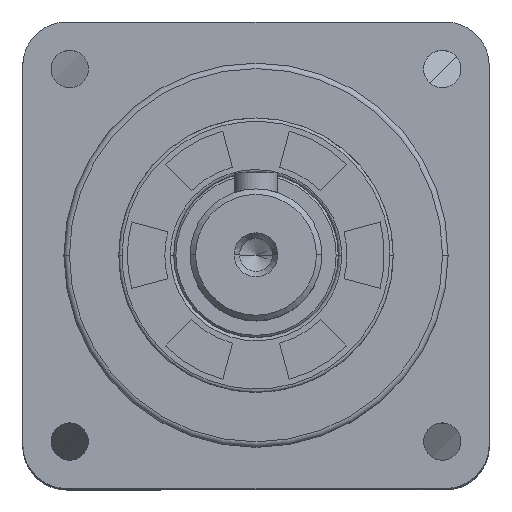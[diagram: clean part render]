
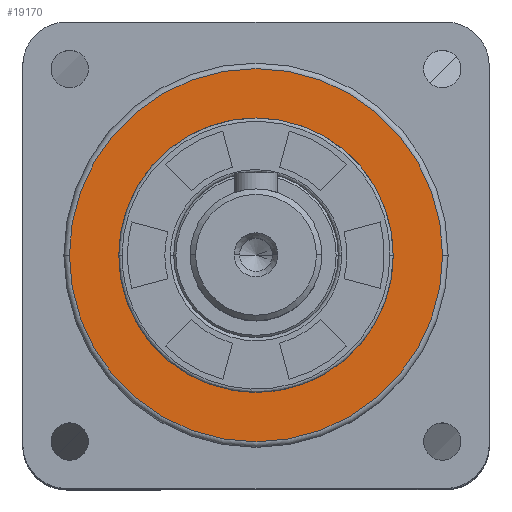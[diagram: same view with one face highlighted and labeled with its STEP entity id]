
A CAD part, top view. The second image highlights one B-rep face of the part: STEP entity #19170.
In plain terms, the highlighted planar face has unit normal (0, 0, 1).
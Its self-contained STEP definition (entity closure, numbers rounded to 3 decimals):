
#758 = ORIENTED_EDGE ( 'NONE', *, *, #22662, .F. ) ;
#1582 = DIRECTION ( 'NONE',  ( 0., 0., 1. ) ) ;
#1637 = ORIENTED_EDGE ( 'NONE', *, *, #4721, .F. ) ;
#1977 = EDGE_CURVE ( 'NONE', #12068, #4482, #14217, .T. ) ;
#3202 = EDGE_CURVE ( 'NONE', #4482, #12068, #8449, .T. ) ;
#3795 = CARTESIAN_POINT ( 'NONE',  ( 12.5, 0., 14.8 ) ) ;
#4329 = DIRECTION ( 'NONE',  ( 0., 0., 1. ) ) ;
#4408 = CIRCLE ( 'NONE', #6961, 12.5 ) ;
#4482 = VERTEX_POINT ( 'NONE', #16388 ) ;
#4721 = EDGE_CURVE ( 'NONE', #11130, #4800, #4408, .T. ) ;
#4800 = VERTEX_POINT ( 'NONE', #13644 ) ;
#5182 = CARTESIAN_POINT ( 'NONE',  ( 0., 0., 14.8 ) ) ;
#5594 = EDGE_LOOP ( 'NONE', ( #13052, #9713 ) ) ;
#6629 = AXIS2_PLACEMENT_3D ( 'NONE', #15343, #22528, #7846 ) ;
#6845 = CIRCLE ( 'NONE', #18634, 12.5 ) ;
#6961 = AXIS2_PLACEMENT_3D ( 'NONE', #9876, #11717, #10181 ) ;
#7092 = DIRECTION ( 'NONE',  ( 1., 0., 0. ) ) ;
#7846 = DIRECTION ( 'NONE',  ( 1., 0., 0. ) ) ;
#8006 = DIRECTION ( 'NONE',  ( 1., 0., 0. ) ) ;
#8449 = CIRCLE ( 'NONE', #16137, 17. ) ;
#9713 = ORIENTED_EDGE ( 'NONE', *, *, #1977, .T. ) ;
#9876 = CARTESIAN_POINT ( 'NONE',  ( 0., 0., 14.8 ) ) ;
#10047 = FACE_OUTER_BOUND ( 'NONE', #5594, .T. ) ;
#10181 = DIRECTION ( 'NONE',  ( 1., 0., 0. ) ) ;
#10306 = DIRECTION ( 'NONE',  ( 0., 0., 1. ) ) ;
#11130 = VERTEX_POINT ( 'NONE', #3795 ) ;
#11717 = DIRECTION ( 'NONE',  ( 0., 0., 1. ) ) ;
#12068 = VERTEX_POINT ( 'NONE', #22112 ) ;
#12159 = DIRECTION ( 'NONE',  ( 1., 0., 0. ) ) ;
#12843 = EDGE_LOOP ( 'NONE', ( #1637, #758 ) ) ;
#13052 = ORIENTED_EDGE ( 'NONE', *, *, #3202, .T. ) ;
#13422 = PLANE ( 'NONE',  #6629 ) ;
#13644 = CARTESIAN_POINT ( 'NONE',  ( -12.5, 0., 14.8 ) ) ;
#14217 = CIRCLE ( 'NONE', #17485, 17. ) ;
#14950 = FACE_BOUND ( 'NONE', #12843, .T. ) ;
#15343 = CARTESIAN_POINT ( 'NONE',  ( 0., 0., 14.8 ) ) ;
#16137 = AXIS2_PLACEMENT_3D ( 'NONE', #5182, #1582, #7092 ) ;
#16388 = CARTESIAN_POINT ( 'NONE',  ( 17., 0., 14.8 ) ) ;
#17485 = AXIS2_PLACEMENT_3D ( 'NONE', #20918, #4329, #8006 ) ;
#18634 = AXIS2_PLACEMENT_3D ( 'NONE', #21261, #10306, #12159 ) ;
#19170 = ADVANCED_FACE ( 'NONE', ( #14950, #10047 ), #13422, .T. ) ;
#20918 = CARTESIAN_POINT ( 'NONE',  ( 0., 0., 14.8 ) ) ;
#21261 = CARTESIAN_POINT ( 'NONE',  ( 0., 0., 14.8 ) ) ;
#22112 = CARTESIAN_POINT ( 'NONE',  ( -17., 0., 14.8 ) ) ;
#22528 = DIRECTION ( 'NONE',  ( 0., 0., 1. ) ) ;
#22662 = EDGE_CURVE ( 'NONE', #4800, #11130, #6845, .T. ) ;
